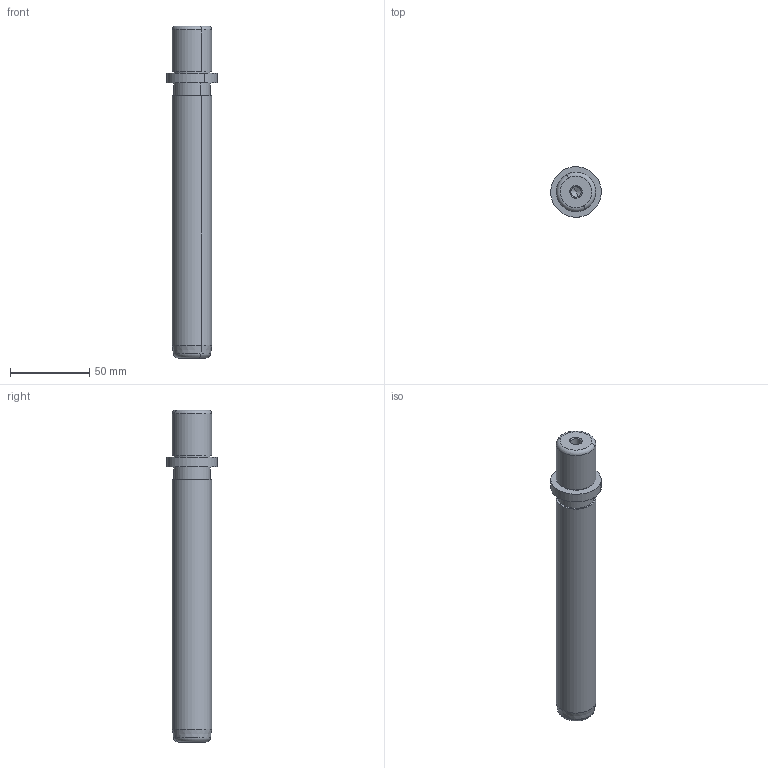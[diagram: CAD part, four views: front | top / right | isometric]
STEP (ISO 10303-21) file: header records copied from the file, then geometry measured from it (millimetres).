
FILE_DESCRIPTION(('CATIA V5 STEP Exchange','CAx-IF Rec.Pracs.--- Model Styling and Organization---1.5--- 2016-08-15','CAx-IF Rec.Pracs.---Supplemental Geometry---1.0---2011-11-01','CAx-IF Rec.Pracs.--- Composite Materials ---1.1---2010-07-15','CAx-IF Rec.Pracs.---External References---2.1---2005-01-19'),'2;1');
FILE_NAME('E:\WAT\Sprezarka\121_00_00_Tlocznik1\Tlocznik1_KPL\Tlocznik1_stp\2021_46_025_180_30.stp','2023-08-01T08:49:44+00:00',('none'),('none'),'CATIA Version 5-6 Release 2022 SP3','CATIA V5 STEP AP214 v2','none');
FILE_SCHEMA(('AUTOMOTIVE_DESIGN { 1 0 10303 214 1 1 1 1 }'));
Length unit declared in the file: millimetre
Products named in the file (1): 2021_46_025_180_30
Bounding box: 31.99 x 31.99 x 210 mm (x, y, z)
Volume: 102109.2 mm3; surface area: 19175 mm2
Topology: 1 solids, 1 shells, 32 faces, 66 edges, 38 vertices
Faces by surface type: cylinder 14, cone 8, plane 6, torus 4
Entity records: 727 total; most frequent: ORIENTED_EDGE 124, CARTESIAN_POINT 117, DIRECTION 94, EDGE_CURVE 62, AXIS2_PLACEMENT_3D 57, CIRCLE 40, EDGE_LOOP 38, VERTEX_POINT 38
